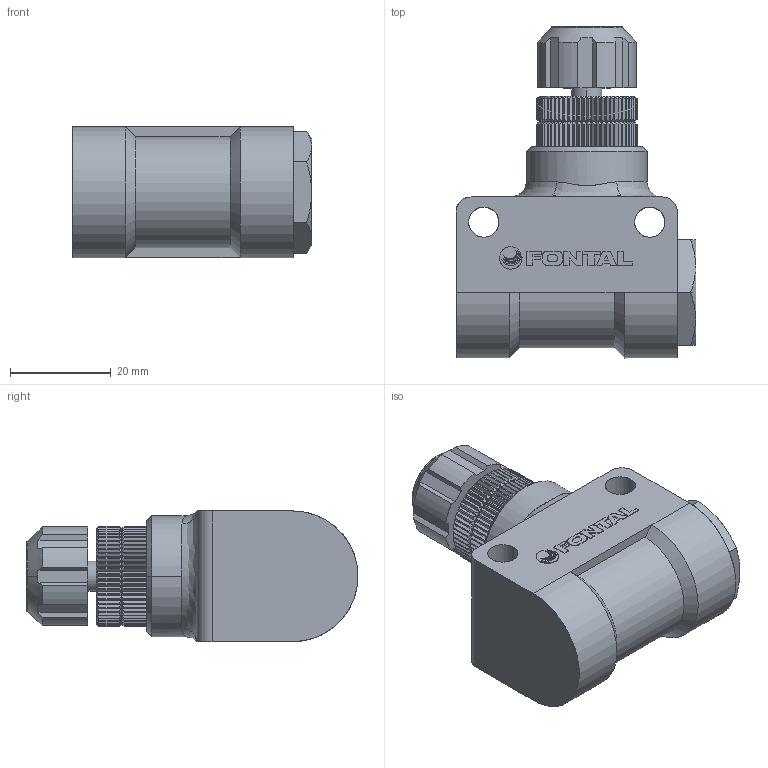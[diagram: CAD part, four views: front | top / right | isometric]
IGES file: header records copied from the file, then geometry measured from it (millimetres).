
Start section: SolidWorks IGES file using analytic representation for surfaces
Global section: file name: D:\Custom\3D繪製\Z-H\06\SP-06-1.IGS,1; native system: 5HSolidWorks 2014; preprocessor: SolidWorks 2014; author: Chieh_Lu; date: 160115.041630; units: millimetre
Bounding box: 47.7 x 66 x 26.12 mm (x, y, z)
Surface area: 12110.6 mm2 (no closed solid volume)
Topology: 0 solids, 0 shells, 666 faces, 4197 edges, 4197 vertices
Faces by surface type: bspline 370, revolution 296
